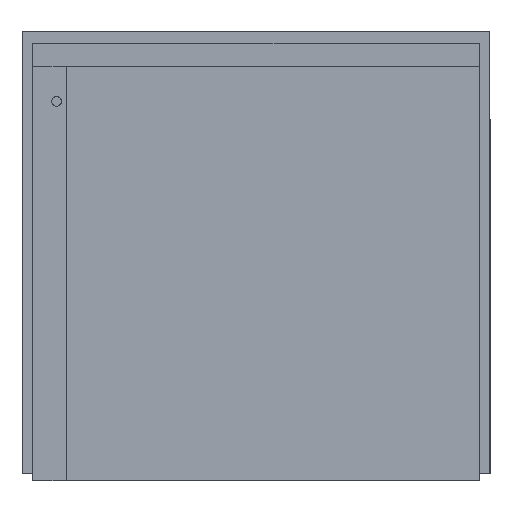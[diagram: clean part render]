
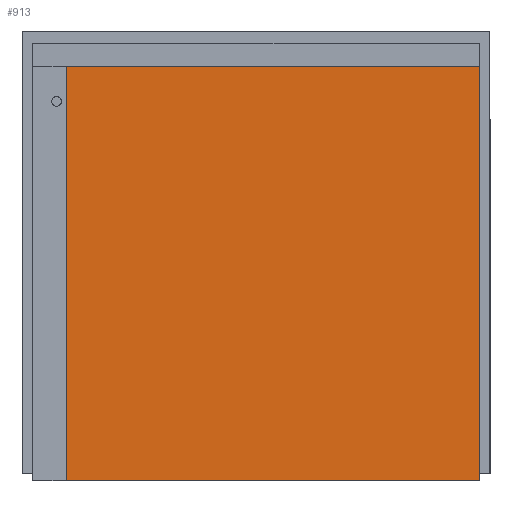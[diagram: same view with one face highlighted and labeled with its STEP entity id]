
A CAD part, left-side view. The second image highlights one B-rep face of the part: STEP entity #913.
In plain terms, the highlighted free-form (B-spline) face has degree [1, 1] with [2, 2] control points.
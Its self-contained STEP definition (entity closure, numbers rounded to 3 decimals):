
#913=ADVANCED_FACE('',(#1153),#3023,.T.);
#1153=FACE_OUTER_BOUND('',#1394,.T.);
#1394=EDGE_LOOP('',(#1972,#1973,#1974,#1975));
#1972=ORIENTED_EDGE('',*,*,#2513,.F.);
#1973=ORIENTED_EDGE('',*,*,#2514,.T.);
#1974=ORIENTED_EDGE('',*,*,#2515,.F.);
#1975=ORIENTED_EDGE('',*,*,#2516,.F.);
#2513=EDGE_CURVE('',#2819,#2820,#3191,.T.);
#2514=EDGE_CURVE('',#2819,#2821,#3192,.T.);
#2515=EDGE_CURVE('',#2822,#2821,#3193,.T.);
#2516=EDGE_CURVE('',#2820,#2822,#3194,.T.);
#2819=VERTEX_POINT('',#87136);
#2820=VERTEX_POINT('',#87137);
#2821=VERTEX_POINT('',#87138);
#2822=VERTEX_POINT('',#87139);
#3023=B_SPLINE_SURFACE_WITH_KNOTS('',1,1,((#87060,#87061),(#87062,#87063)),
.UNSPECIFIED.,.F.,.F.,.F.,(2,2),(2,2),(0.,1.),(0.074,1.),.UNSPECIFIED.);
#3191=B_SPLINE_CURVE_WITH_KNOTS('',1,(#86964,#86965),.UNSPECIFIED.,.F.,.F.,
(2,2),(0.,0.929),.UNSPECIFIED.);
#3192=B_SPLINE_CURVE_WITH_KNOTS('',1,(#86966,#86967),.UNSPECIFIED.,.F.,.F.,
(2,2),(0.074,1.),.UNSPECIFIED.);
#3193=B_SPLINE_CURVE_WITH_KNOTS('',1,(#86968,#86969),.UNSPECIFIED.,.F.,.F.,
(2,2),(0.,1.),.UNSPECIFIED.);
#3194=B_SPLINE_CURVE_WITH_KNOTS('',1,(#86970,#86971),.UNSPECIFIED.,.F.,.F.,
(2,2),(0.074,1.),.UNSPECIFIED.);
#86964=CARTESIAN_POINT('',(-596.8,307.2,0.002));
#86965=CARTESIAN_POINT('',(-596.8,307.2,670.403));
#86966=CARTESIAN_POINT('',(-596.8,307.2,0.));
#86967=CARTESIAN_POINT('',(-596.8,-360.871,0.));
#86968=CARTESIAN_POINT('',(-596.8,-360.871,670.403));
#86969=CARTESIAN_POINT('',(-596.8,-360.871,0.));
#86970=CARTESIAN_POINT('',(-596.8,307.2,670.403));
#86971=CARTESIAN_POINT('',(-596.8,-360.871,670.403));
#87060=CARTESIAN_POINT('',(-596.8,307.2,670.403));
#87061=CARTESIAN_POINT('',(-596.8,-360.871,670.403));
#87062=CARTESIAN_POINT('',(-596.8,307.2,0.));
#87063=CARTESIAN_POINT('',(-596.8,-360.871,0.));
#87136=CARTESIAN_POINT('',(-596.8,307.2,0.));
#87137=CARTESIAN_POINT('',(-596.8,307.2,670.403));
#87138=CARTESIAN_POINT('',(-596.8,-360.871,0.));
#87139=CARTESIAN_POINT('',(-596.8,-360.871,670.403));
